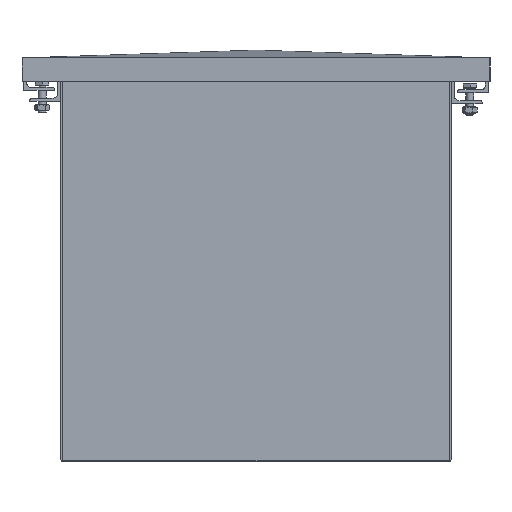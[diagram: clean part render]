
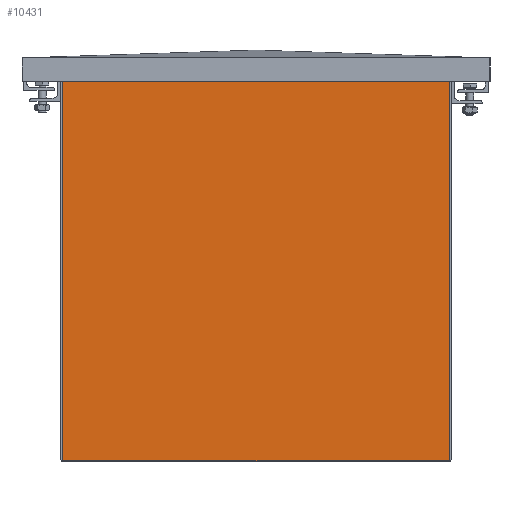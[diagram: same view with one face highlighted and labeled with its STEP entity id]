
A CAD part, left-side view. The second image highlights one B-rep face of the part: STEP entity #10431.
In plain terms, the highlighted planar face has unit normal (-1, 0, 0).
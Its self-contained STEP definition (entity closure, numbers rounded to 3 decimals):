
#212=LINE('',#15446,#900);
#576=LINE('',#16877,#1264);
#577=LINE('',#16879,#1265);
#578=LINE('',#16880,#1266);
#900=VECTOR('',#12509,500.);
#1264=VECTOR('',#13645,491.303);
#1265=VECTOR('',#13646,500.);
#1266=VECTOR('',#13647,491.303);
#2687=PLANE('',#11343);
#3484=FACE_OUTER_BOUND('',#4271,.T.);
#4271=EDGE_LOOP('',(#9164,#9165,#9166,#9167));
#5224=VERTEX_POINT('',#15443);
#5225=VERTEX_POINT('',#15445);
#5618=VERTEX_POINT('',#16876);
#5619=VERTEX_POINT('',#16878);
#6268=EDGE_CURVE('',#5225,#5224,#212,.T.);
#6858=EDGE_CURVE('',#5618,#5224,#576,.T.);
#6859=EDGE_CURVE('',#5619,#5618,#577,.T.);
#6860=EDGE_CURVE('',#5225,#5619,#578,.T.);
#9164=ORIENTED_EDGE('',*,*,#6268,.T.);
#9165=ORIENTED_EDGE('',*,*,#6858,.F.);
#9166=ORIENTED_EDGE('',*,*,#6859,.F.);
#9167=ORIENTED_EDGE('',*,*,#6860,.F.);
#10431=ADVANCED_FACE('',(#3484),#2687,.T.);
#11343=AXIS2_PLACEMENT_3D('',#16875,#13643,#13644);
#12509=DIRECTION('',(0.,1.,0.));
#13643=DIRECTION('center_axis',(-1.,0.,0.));
#13644=DIRECTION('ref_axis',(0.,-1.,0.));
#13645=DIRECTION('',(0.,0.,1.));
#13646=DIRECTION('',(0.,1.,0.));
#13647=DIRECTION('',(0.,0.,-1.));
#15443=CARTESIAN_POINT('',(-570.984,250.,491.304));
#15445=CARTESIAN_POINT('',(-570.984,-250.,491.304));
#15446=CARTESIAN_POINT('',(-570.984,0.,491.304));
#16875=CARTESIAN_POINT('Origin',(-570.984,0.,250.));
#16876=CARTESIAN_POINT('',(-570.984,250.,0.));
#16877=CARTESIAN_POINT('',(-570.984,250.,500.));
#16878=CARTESIAN_POINT('',(-570.984,-250.,0.));
#16879=CARTESIAN_POINT('',(-570.984,250.,0.));
#16880=CARTESIAN_POINT('',(-570.984,-250.,0.));
